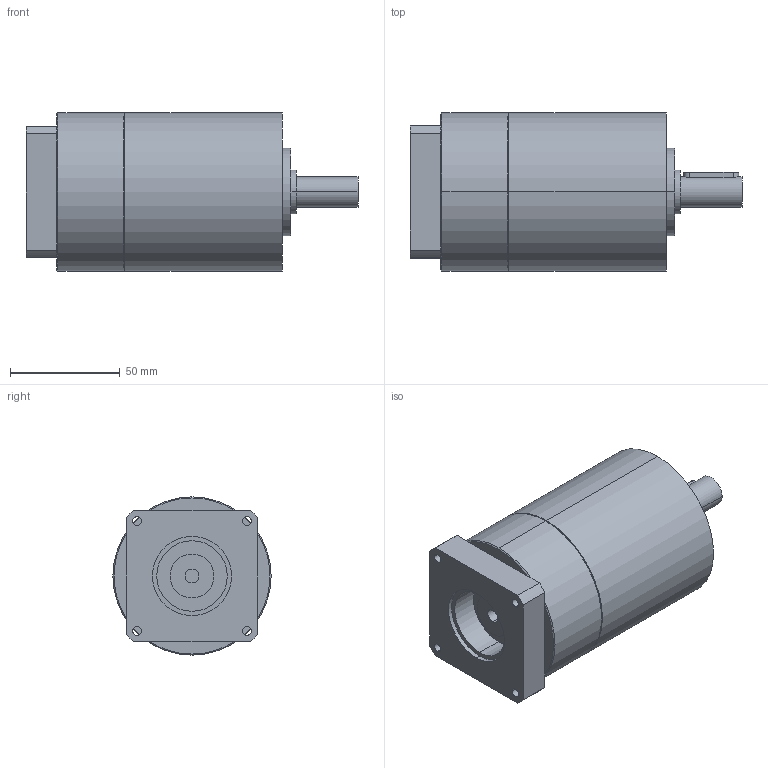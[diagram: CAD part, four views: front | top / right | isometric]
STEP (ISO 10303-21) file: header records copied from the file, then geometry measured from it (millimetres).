
FILE_DESCRIPTION(('CoCreate Modeling STEP Export'),'2;1');
FILE_NAME('GPT75_ig-9-12-16-20-25-28-35-40-50-70-100_14_B14T_6.35_P35.stp','2014-08-27T13:19:42',(''),(''),'CoCreate Modeling STEP processor for AP214 (Solid Model)','CoCreate Modeling 16.00C 25-Feb-2009 (C) Parametric Technology GmbH','');
FILE_SCHEMA(('AUTOMOTIVE_DESIGN { 1 0 10303 214 1 1 1 1 }'));
Length unit declared in the file: millimetre
Products named in the file (2): GPT75_ig-9-12-16-20-25-28-35-40-50-70-100_14_B14T_6.35_P35
Assembly tree (1 placements, depth 2):
  GPT75_ig-9-12-16-20-25-28-35-40-50-70-100_14_B14T_6.35_P35
    GPT75_ig-9-12-16-20-25-28-35-40-50-70-100_14_B14T_6.35_P35
Bounding box: 151 x 72 x 72 mm (x, y, z)
Volume: 464389.8 mm3; surface area: 40816.2 mm2
Topology: 1 solids, 1 shells, 80 faces, 198 edges, 129 vertices
Faces by surface type: cylinder 42, plane 34, cone 4
Entity records: 2353 total; most frequent: CARTESIAN_POINT 689, ORIENTED_EDGE 396, DIRECTION 276, EDGE_CURVE 198, VERTEX_POINT 129, AXIS2_PLACEMENT_3D 104, EDGE_LOOP 97, FACE_OUTER_BOUND 80
